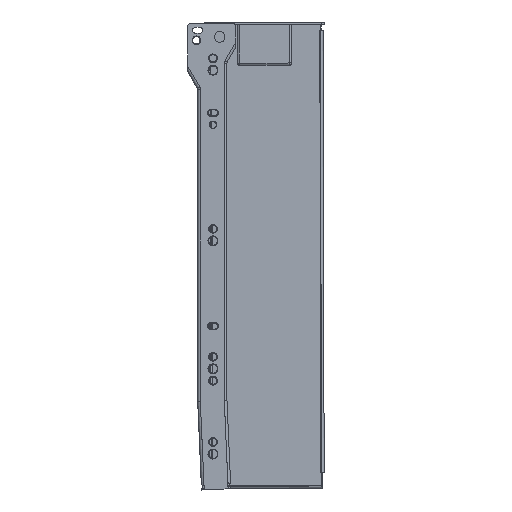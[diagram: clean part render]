
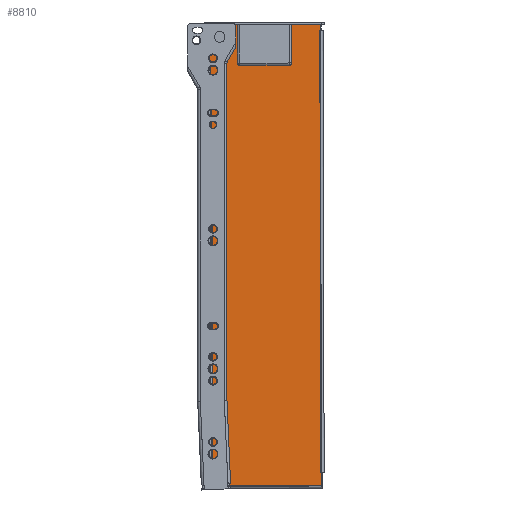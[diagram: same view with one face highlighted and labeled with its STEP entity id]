
A CAD part, left-side view. The second image highlights one B-rep face of the part: STEP entity #8810.
In plain terms, the highlighted planar face has unit normal (-1, 0, 0) as drawn and (0, 0, -1) by its records, which use the part's own axes.
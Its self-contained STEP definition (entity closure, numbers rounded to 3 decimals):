
#718=LINE('',#14166,#1428);
#722=LINE('',#14184,#1432);
#723=LINE('',#14186,#1433);
#724=LINE('',#14188,#1434);
#725=LINE('',#14190,#1435);
#726=LINE('',#14192,#1436);
#727=LINE('',#14196,#1437);
#728=LINE('',#14199,#1438);
#1428=VECTOR('',#11479,85.928);
#1432=VECTOR('',#11489,346.2);
#1433=VECTOR('',#11490,84.034);
#1434=VECTOR('',#11491,55.801);
#1435=VECTOR('',#11492,269.152);
#1436=VECTOR('',#11493,1.6);
#1437=VECTOR('',#11496,1.3);
#1438=VECTOR('',#11499,15.5);
#1849=PLANE('',#9583);
#2082=FACE_BOUND('',#3042,.T.);
#2434=FACE_OUTER_BOUND('',#3041,.T.);
#3041=EDGE_LOOP('',(#7002,#7003,#7004,#7005,#7006,#7007,#7008,#7009,#7010,
#7011,#7012));
#3042=EDGE_LOOP('',(#7013));
#3564=CIRCLE('',#9582,2.);
#3565=CIRCLE('',#9584,1.2);
#3566=CIRCLE('',#9585,2.);
#3567=CIRCLE('',#9586,3.5);
#4192=VERTEX_POINT('',#14160);
#4193=VERTEX_POINT('',#14165);
#4195=VERTEX_POINT('',#14178);
#4196=VERTEX_POINT('',#14183);
#4197=VERTEX_POINT('',#14185);
#4198=VERTEX_POINT('',#14187);
#4199=VERTEX_POINT('',#14189);
#4200=VERTEX_POINT('',#14191);
#4201=VERTEX_POINT('',#14193);
#4202=VERTEX_POINT('',#14195);
#4203=VERTEX_POINT('',#14197);
#4204=VERTEX_POINT('',#14200);
#5194=EDGE_CURVE('',#4192,#4193,#718,.T.);
#5197=EDGE_CURVE('',#4193,#4195,#3564,.T.);
#5200=EDGE_CURVE('',#4196,#4192,#722,.T.);
#5201=EDGE_CURVE('',#4196,#4197,#723,.T.);
#5202=EDGE_CURVE('',#4198,#4197,#724,.T.);
#5203=EDGE_CURVE('',#4199,#4198,#725,.T.);
#5204=EDGE_CURVE('',#4199,#4200,#726,.T.);
#5205=EDGE_CURVE('',#4201,#4200,#3565,.T.);
#5206=EDGE_CURVE('',#4202,#4201,#727,.T.);
#5207=EDGE_CURVE('',#4203,#4202,#3566,.T.);
#5208=EDGE_CURVE('',#4195,#4203,#728,.T.);
#5209=EDGE_CURVE('',#4204,#4204,#3567,.T.);
#7002=ORIENTED_EDGE('',*,*,#5194,.F.);
#7003=ORIENTED_EDGE('',*,*,#5200,.F.);
#7004=ORIENTED_EDGE('',*,*,#5201,.T.);
#7005=ORIENTED_EDGE('',*,*,#5202,.F.);
#7006=ORIENTED_EDGE('',*,*,#5203,.F.);
#7007=ORIENTED_EDGE('',*,*,#5204,.T.);
#7008=ORIENTED_EDGE('',*,*,#5205,.F.);
#7009=ORIENTED_EDGE('',*,*,#5206,.F.);
#7010=ORIENTED_EDGE('',*,*,#5207,.F.);
#7011=ORIENTED_EDGE('',*,*,#5208,.F.);
#7012=ORIENTED_EDGE('',*,*,#5197,.F.);
#7013=ORIENTED_EDGE('',*,*,#5209,.T.);
#8810=ADVANCED_FACE('',(#2434,#2082),#1849,.F.);
#9582=AXIS2_PLACEMENT_3D('',#14179,#11483,#11484);
#9583=AXIS2_PLACEMENT_3D('',#14182,#11487,#11488);
#9584=AXIS2_PLACEMENT_3D('',#14194,#11494,#11495);
#9585=AXIS2_PLACEMENT_3D('',#14198,#11497,#11498);
#9586=AXIS2_PLACEMENT_3D('',#14201,#11500,#11501);
#11479=DIRECTION('',(0.,1.,0.));
#11483=DIRECTION('center_axis',(0.,0.,1.));
#11484=DIRECTION('ref_axis',(1.,0.,0.));
#11487=DIRECTION('center_axis',(0.,0.,1.));
#11488=DIRECTION('ref_axis',(1.,0.,0.));
#11489=DIRECTION('',(1.,0.,0.));
#11490=DIRECTION('',(0.,1.,0.));
#11491=DIRECTION('',(-0.999,0.044,0.));
#11492=DIRECTION('',(-1.,0.,0.));
#11493=DIRECTION('',(0.,1.,0.));
#11494=DIRECTION('center_axis',(0.,0.,-1.));
#11495=DIRECTION('ref_axis',(1.,0.,0.));
#11496=DIRECTION('',(0.,-1.,0.));
#11497=DIRECTION('center_axis',(0.,0.,1.));
#11498=DIRECTION('ref_axis',(0.,1.,0.));
#11499=DIRECTION('',(-1.,0.,0.));
#11500=DIRECTION('center_axis',(0.,0.,1.));
#11501=DIRECTION('ref_axis',(-1.,0.,0.));
#14160=CARTESIAN_POINT('',(9.4,-79.,0.));
#14165=CARTESIAN_POINT('',(9.4,6.928,0.));
#14166=CARTESIAN_POINT('',(9.4,-17.925,0.));
#14178=CARTESIAN_POINT('',(8.,7.5,0.));
#14179=CARTESIAN_POINT('Origin',(8.,5.5,0.));
#14182=CARTESIAN_POINT('Origin',(-164.844,-37.55,0.));
#14183=CARTESIAN_POINT('',(-336.8,-79.,0.));
#14184=CARTESIAN_POINT('',(-252.422,-79.,0.));
#14185=CARTESIAN_POINT('',(-336.8,5.034,0.));
#14186=CARTESIAN_POINT('',(-336.8,-14.987,0.));
#14187=CARTESIAN_POINT('',(-281.052,2.6,0.));
#14188=CARTESIAN_POINT('',(-222.197,0.03,0.));
#14189=CARTESIAN_POINT('',(-11.9,2.6,0.));
#14190=CARTESIAN_POINT('',(-88.372,2.6,0.));
#14191=CARTESIAN_POINT('',(-11.9,4.2,0.));
#14192=CARTESIAN_POINT('',(-11.9,-16.675,0.));
#14193=CARTESIAN_POINT('',(-9.5,4.2,0.));
#14194=CARTESIAN_POINT('Origin',(-10.7,4.2,0.));
#14195=CARTESIAN_POINT('',(-9.5,5.5,0.));
#14196=CARTESIAN_POINT('',(-9.5,5.5,0.));
#14197=CARTESIAN_POINT('',(-7.5,7.5,0.));
#14198=CARTESIAN_POINT('Origin',(-7.5,5.5,0.));
#14199=CARTESIAN_POINT('',(8.,7.5,0.));
#14200=CARTESIAN_POINT('',(3.5,0.,0.));
#14201=CARTESIAN_POINT('Origin',(0.,0.,0.));
